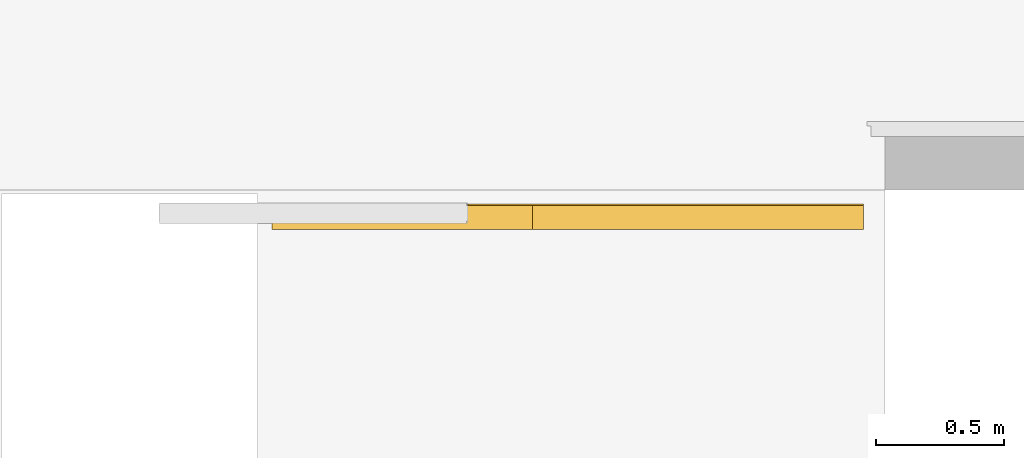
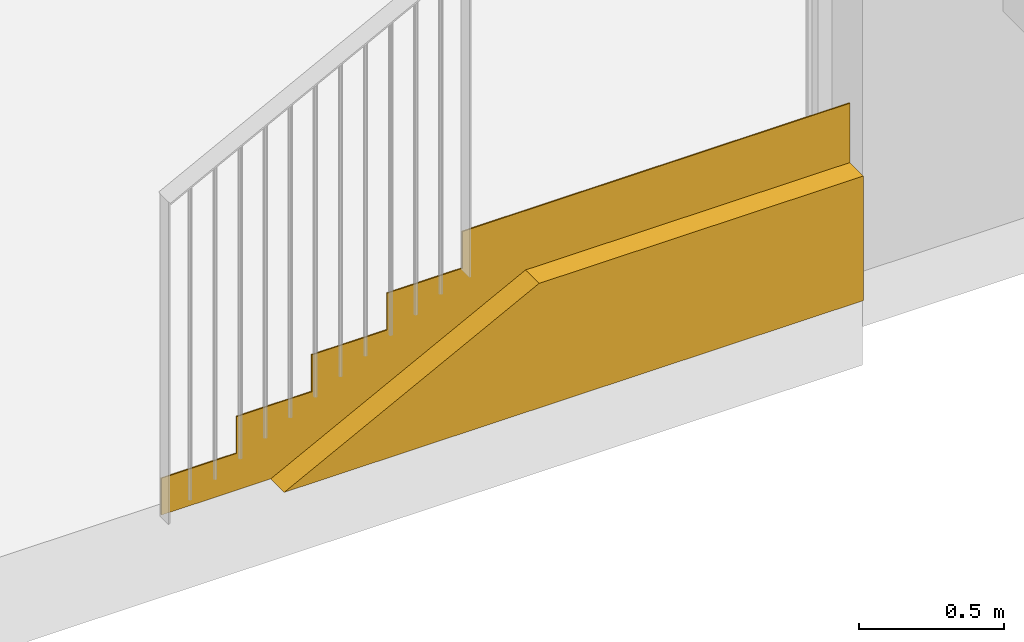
# One storey, part 37 of 43: 1 covering.
"""IFC2X3 building model written with IfcOpenShell, lengths in millimetres."""

from ifc_helpers import new_model, entity, si_unit, converted_unit, derived_unit, money_unit, direction, frame, origin_with_axes, place, context, subcontext, project, spatial, faceted_brep, material, material_list, type_object, element, save


model = new_model("IFC2X3")

# Units and contexts
model_context = context("Model", 3, precision=0.01, world=origin_with_axes(), true_north=direction((0.0, 1.0)))
body_context = subcontext(model_context, "Body", "Model", "MODEL_VIEW")
ifc_project = project(units=[si_unit("LENGTHUNIT", "METRE", prefix="MILLI"), si_unit("AREAUNIT", "SQUARE_METRE"), si_unit("VOLUMEUNIT", "CUBIC_METRE"), converted_unit("PLANEANGLEUNIT", "DEGREE", entity("IfcPlaneAngleMeasure", 0.0174532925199), si_unit("PLANEANGLEUNIT", "RADIAN"), dimensions=[0, 0, 0, 0, 0, 0, 0]), si_unit("SOLIDANGLEUNIT", "STERADIAN"), money_unit("EUR"), converted_unit("TIMEUNIT", "Year", entity("IfcTimeMeasure", 31556926.0), si_unit("TIMEUNIT", "SECOND"), dimensions=[0, 0, 1, 0, 0, 0, 0]), si_unit("MASSUNIT", "GRAM", prefix="KILO"), si_unit("THERMODYNAMICTEMPERATUREUNIT", "DEGREE_CELSIUS"), si_unit("LUMINOUSINTENSITYUNIT", "LUMEN"), si_unit("ENERGYUNIT", "JOULE", prefix="MEGA"), derived_unit("THERMALCONDUCTANCEUNIT", [(si_unit("POWERUNIT", "WATT"), 1), (si_unit("LENGTHUNIT", "METRE"), -1), (si_unit("THERMODYNAMICTEMPERATUREUNIT", "KELVIN"), -1)]), derived_unit("SPECIFICHEATCAPACITYUNIT", [(si_unit("ENERGYUNIT", "JOULE"), 1), (si_unit("MASSUNIT", "GRAM", prefix="KILO"), -1), (si_unit("THERMODYNAMICTEMPERATUREUNIT", "KELVIN"), -1)]), derived_unit("MASSDENSITYUNIT", [(si_unit("MASSUNIT", "GRAM", prefix="KILO"), 1), (si_unit("VOLUMEUNIT", "CUBIC_METRE"), -1)])], contexts=[model_context])

# Site, building, storey
site_placement = place(None, origin_with_axes())
site = spatial("IfcSite", under=ifc_project, at=site_placement, Name="L.Koidula tn 11b", CompositionType="ELEMENT")
building_placement = place(site_placement, origin_with_axes())
building = spatial("IfcBuilding", under=site, at=building_placement, Name="Rakvere Riigigümnaasium", CompositionType="ELEMENT")
storey_placement = place(building_placement, frame((0.0, 0.0, 6665.0), z_axis=(0.0, 0.0, 1.0), x_axis=(1.0, 0.0, 0.0)))
storey = spatial("IfcBuildingStorey", under=building, at=storey_placement, Name="3.korrus +6,66", CompositionType="ELEMENT", Elevation=6665.0)

# Covering
ifc_material_1 = material(Name="Keraamiline plaat valge")
ifc_material_2 = material(Name="Alumiiniumprofiil")
ifc_material_3 = material(Name="Kipsplaat")
ifc_material_4 = material(Name="Karkass")
ifc_material_list = material_list([ifc_material_1, ifc_material_2, ifc_material_2, ifc_material_3, ifc_material_4])
covering_type = type_object("IfcCoveringType", Name="SA-Pinnakate-Ker 99", PredefinedType="NOTDEFINED")
covering_placement = place(storey_placement, frame((72599.9986371, 17040.4555096, 0.0), z_axis=(0.0, 0.0, 1.0), x_axis=(1.0, 0.0, 0.0)))
element("IfcCovering", 1, at=covering_placement, inside=storey, type_object=covering_type, material=ifc_material_list, Name="Pinnakate-keraamiline-neetidega", PredefinedType="NOTDEFINED", context=body_context, shape_type="Brep", body=[
    faceted_brep([(899.999887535, 15.0, 620.0), (1199.99988753, 15.0, 620.0), (1199.99988753, 15.0, 775.0), (2745.08350465, 15.0, 775.0), (2745.08350465, 15.0, 0.0), (0.0, 15.0, 0.0), (-0.000112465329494, 15.0000000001, 155.0), (299.999891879, 15.0, 155.0), (299.999891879, 15.0, 310.0), (599.99987996, 15.0, 310.0), (599.99987996, 15.0, 465.0), (899.999887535, 15.0, 465.0), (899.999884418, 10.0, 620.0), (1199.99988442, 10.0, 620.0), (1199.99988442, 10.0, 775.0), (2745.08350465, 10.0, 775.0), (2745.08350465, 10.0, 0.0), (0.0, 10.0, 0.0), (-0.000115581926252, 10.0000000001, 155.0), (299.99988875, 10.0, 155.0), (299.99988875, 10.0, 310.0), (599.999876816, 10.0, 310.0), (599.999876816, 10.0, 465.0), (899.999884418, 10.0, 465.0)], [[[0, 1, 2, 3, 4, 5, 6, 7, 8, 9, 10, 11]], [[1, 0, 12, 13]], [[14, 2, 1, 13]], [[2, 14, 15, 3]], [[15, 16, 4, 3]], [[4, 16, 17, 5]], [[18, 6, 5, 17]], [[7, 6, 18, 19]], [[8, 7, 19, 20]], [[9, 8, 20, 21]], [[10, 9, 21, 22]], [[11, 10, 22, 23]], [[0, 11, 23, 12]], [[19, 18, 17, 16, 15, 14, 13, 12, 23, 22, 21, 20]]]),
    faceted_brep([(1451.83930043, 10.0491003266, 775.0), (1451.83930043, 9.99999613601, 775.0), (2745.08350465, 9.99999613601, 775.0), (1451.83930043, 10.0491003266, 525.000006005), (1451.83930043, 9.99999613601, 525.0), (2745.08350465, 9.99999613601, 525.0), (1199.99945222, 0.0, 394.882749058), (1451.83930028, 0.0, 525.0), (1199.99945268, 10.0491003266, 394.882749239), (2745.08350465, 0.0, 525.0), (435.71081822, 10.0491027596, 0.0), (2745.08350465, 10.0, 0.0), (900.0, 10.0491027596, 239.882758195), (937.499930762, 10.0491027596, 259.257753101), (974.999861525, 10.0491027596, 278.632748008), (987.499838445, 10.0491027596, 285.091079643), (999.999815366, 10.0491027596, 291.549411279), (1024.99976921, 10.0491027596, 304.466077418), (1049.99972305, 10.0491027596, 317.382743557), (1074.99967689, 10.0491027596, 330.299409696), (1099.99963073, 10.0491027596, 343.216075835), (1112.49960765, 10.0491027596, 349.674409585), (1124.99958457, 10.0491027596, 356.132743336), (1162.49951534, 10.0491027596, 375.507744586), (2745.08350465, 0.0, 0.0), (1164.49335362, 0.0, 376.537896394), (1160.50567527, 0.0, 374.477592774), (1124.99958291, 0.0, 356.13274333), (1113.16421879, 0.0, 350.017793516), (1111.83499267, 0.0, 349.331025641), (1099.99962855, 0.0, 343.216075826), (1076.32890031, 0.0, 330.986177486), (1073.67044808, 0.0, 329.612641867), (1049.99971983, 0.0, 317.382743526), (1026.32899159, 0.0, 305.152845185), (1023.67053936, 0.0, 303.779309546), (999.999811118, 0.0, 291.549411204), (988.164446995, 0.0, 285.434463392), (986.835220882, 0.0, 284.747695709), (974.999856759, 0.0, 278.632747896), (939.49376439, 0.0, 260.287904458), (935.506086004, 0.0, 258.227601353), (899.999993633, 0.0, 239.882757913), (863.696298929, 0.0, 221.125843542), (861.303688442, 0.0, 219.889661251), (824.999993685, 0.0, 201.132746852), (788.696298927, 0.0, 182.375836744), (786.303688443, 0.0, 181.139654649), (749.999993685, 0.0, 162.38274454), (713.696298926, 0.0, 143.625833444), (711.303688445, 0.0, 142.389651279), (674.999993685, 0.0, 123.632740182), (638.696298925, 0.0, 104.875831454), (636.303688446, 0.0, 103.639649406), (599.999993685, 0.0, 84.8827406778), (563.696298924, 0.0, 66.1258324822), (561.303688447, 0.0, 64.8896504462), (524.999993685, 0.0, 46.1327422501), (488.696298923, 0.0, 27.3758340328), (486.303688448, 0.0, 26.1396519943), (449.999993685, 0.0, 7.38274377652), (435.710811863, 0.0, 0.0), (825.0, 10.0491027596, 201.132746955), (862.5, 10.0491027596, 220.507752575), (450.0, 10.0491027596, 7.38274375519), (487.5, 10.0491027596, 26.7577429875), (525.0, 10.0491027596, 46.1327422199), (562.5, 10.0491027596, 65.5077414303), (600.0, 10.0491027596, 84.8827406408), (637.5, 10.0491027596, 104.257740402), (675.0, 10.0491027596, 123.632740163), (712.5, 10.0491027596, 143.007742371), (750.0, 10.0491027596, 162.382744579), (787.5, 10.0491027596, 181.757745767)], [[[0, 1, 2]], [[3, 4, 1, 0]], [[4, 5, 2, 1]], [[0, 2, 3]], [[6, 7, 4, 3, 8]], [[7, 9, 5, 4]], [[10, 2, 5, 11]], [[3, 2, 12, 13, 14, 15, 16, 17, 18, 19, 20, 21, 22, 23, 8]], [[24, 9, 7, 6, 25, 26, 27, 28, 29, 30, 31, 32, 33, 34, 35, 36, 37, 38, 39, 40, 41, 42, 43, 44, 45, 46, 47, 48, 49, 50, 51, 52, 53, 54, 55, 56, 57, 58, 59, 60, 61]], [[25, 6, 8, 23]], [[11, 5, 9, 24]], [[62, 63, 2, 10, 64, 65, 66, 67, 68, 69, 70, 71, 72, 73]], [[11, 24, 61, 10]], [[63, 12, 2]], [[42, 41, 13, 12]], [[40, 39, 14, 13]], [[39, 38, 15, 14]], [[37, 36, 16, 15]], [[36, 35, 17, 16]], [[34, 33, 18, 17]], [[33, 32, 19, 18]], [[31, 30, 20, 19]], [[30, 29, 21, 20]], [[28, 27, 22, 21]], [[27, 26, 23, 22]], [[25, 23, 26]], [[28, 21, 29]], [[31, 19, 32]], [[34, 17, 35]], [[37, 15, 38]], [[40, 13, 41]], [[43, 42, 12, 63]], [[43, 63, 44]], [[45, 44, 63, 62]], [[46, 45, 62, 73]], [[46, 73, 47]], [[48, 47, 73, 72]], [[49, 48, 72, 71]], [[49, 71, 50]], [[51, 50, 71, 70]], [[52, 51, 70, 69]], [[52, 69, 53]], [[54, 53, 69, 68]], [[55, 54, 68, 67]], [[55, 67, 56]], [[57, 56, 67, 66]], [[58, 57, 66, 65]], [[58, 65, 59]], [[60, 59, 65, 64]], [[61, 60, 64, 10]]]),
    faceted_brep([(1199.99945222, 0.0, 394.882749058), (1451.83930028, 0.0, 525.0), (2745.08350465, 0.0, 525.0), (2745.08350465, 0.0, 0.0), (435.710811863, 0.0, 0.0), (449.999993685, 0.0, 7.38274377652), (486.303688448, 0.0, 26.1396519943), (488.696298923, 0.0, 27.3758340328), (524.999993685, 0.0, 46.1327422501), (561.303688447, 0.0, 64.8896504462), (563.696298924, 0.0, 66.1258324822), (599.999993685, 0.0, 84.8827406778), (636.303688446, 0.0, 103.639649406), (638.696298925, 0.0, 104.875831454), (674.999993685, 0.0, 123.632740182), (711.303688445, 0.0, 142.389651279), (713.696298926, 0.0, 143.625833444), (749.999993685, 0.0, 162.38274454), (786.303688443, 0.0, 181.139654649), (788.696298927, 0.0, 182.375836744), (824.999993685, 0.0, 201.132746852), (861.303688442, 0.0, 219.889661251), (863.696298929, 0.0, 221.125843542), (899.999993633, 0.0, 239.882757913), (935.506086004, 0.0, 258.227601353), (939.49376439, 0.0, 260.287904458), (974.999856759, 0.0, 278.632747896), (986.835220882, 0.0, 284.747695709), (988.164446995, 0.0, 285.434463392), (999.999811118, 0.0, 291.549411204), (1023.67053936, 0.0, 303.779309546), (1026.32899159, 0.0, 305.152845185), (1049.99971983, 0.0, 317.382743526), (1073.67044808, 0.0, 329.612641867), (1076.32890031, 0.0, 330.986177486), (1099.99962855, 0.0, 343.216075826), (1111.83499267, 0.0, 349.331025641), (1113.16421879, 0.0, 350.017793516), (1124.99958291, 0.0, 356.13274333), (1160.50567527, 0.0, 374.477592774), (1164.49335362, 0.0, 376.537896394), (1199.99945199, -5.0, 394.882748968), (1451.83930021, -5.0, 525.0), (2745.08350465, -5.0, 525.0), (2745.08350465, -5.0, 0.0), (435.710808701, -5.0, 0.0), (449.999990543, -5.0, 7.38274378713), (485.70845543, -5.0, 25.8321165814), (489.291525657, -5.0, 27.6833694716), (524.999990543, -5.0, 46.1327422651), (560.708455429, -5.0, 64.5821150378), (564.291525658, -5.0, 66.4333679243), (599.999990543, -5.0, 84.8827406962), (635.708455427, -5.0, 103.332113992), (639.29152566, -5.0, 105.183366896), (674.999990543, -5.0, 123.632740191), (710.708455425, -5.0, 142.082115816), (714.291525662, -5.0, 143.933368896), (749.999990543, -5.0, 162.38274452), (785.708455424, -5.0, 180.832119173), (789.291525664, -5.0, 182.683372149), (824.999990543, -5.0, 201.132746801), (860.708455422, -5.0, 219.582125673), (864.291525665, -5.0, 221.433378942), (899.999990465, -5.0, 239.882757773), (934.514034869, -5.0, 257.715042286), (940.485809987, -5.0, 260.80046333), (974.999854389, -5.0, 278.632747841), (986.504535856, -5.0, 284.576842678), (988.495127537, -5.0, 285.605316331), (999.999809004, -5.0, 291.549411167), (1023.00917194, -5.0, 303.437603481), (1026.9903553, -5.0, 305.494551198), (1049.99971823, -5.0, 317.382743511), (1073.00908117, -5.0, 329.270935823), (1076.99026453, -5.0, 331.32788351), (1099.99962746, -5.0, 343.216075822), (1111.50430893, -5.0, 349.160172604), (1113.49490061, -5.0, 350.188646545), (1124.99958208, -5.0, 356.132743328), (1159.51362648, -5.0, 373.965033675), (1165.48540153, -5.0, 377.050455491)], [[[0, 1, 2, 3, 4, 5, 6, 7, 8, 9, 10, 11, 12, 13, 14, 15, 16, 17, 18, 19, 20, 21, 22, 23, 24, 25, 26, 27, 28, 29, 30, 31, 32, 33, 34, 35, 36, 37, 38, 39, 40]], [[41, 42, 1, 0]], [[42, 43, 2, 1]], [[3, 2, 43, 44]], [[3, 44, 45, 4]], [[45, 46, 5, 4]], [[46, 47, 6, 5]], [[7, 6, 47, 48]], [[48, 49, 8, 7]], [[49, 50, 9, 8]], [[10, 9, 50, 51]], [[51, 52, 11, 10]], [[52, 53, 12, 11]], [[13, 12, 53, 54]], [[54, 55, 14, 13]], [[55, 56, 15, 14]], [[16, 15, 56, 57]], [[57, 58, 17, 16]], [[58, 59, 18, 17]], [[19, 18, 59, 60]], [[60, 61, 20, 19]], [[61, 62, 21, 20]], [[22, 21, 62, 63]], [[63, 64, 23, 22]], [[64, 65, 24, 23]], [[25, 24, 65, 66]], [[66, 67, 26, 25]], [[67, 68, 27, 26]], [[28, 27, 68, 69]], [[69, 70, 29, 28]], [[70, 71, 30, 29]], [[31, 30, 71, 72]], [[72, 73, 32, 31]], [[73, 74, 33, 32]], [[34, 33, 74, 75]], [[75, 76, 35, 34]], [[76, 77, 36, 35]], [[37, 36, 77, 78]], [[78, 79, 38, 37]], [[79, 80, 39, 38]], [[40, 39, 80, 81]], [[81, 41, 0, 40]], [[44, 43, 42, 41, 81, 80, 79, 78, 77, 76, 75, 74, 73, 72, 71, 70, 69, 68, 67, 66, 65, 64, 63, 62, 61, 60, 59, 58, 57, 56, 55, 54, 53, 52, 51, 50, 49, 48, 47, 46, 45]]]),
    faceted_brep([(1199.99945199, -5.0, 394.882748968), (1451.83930021, -5.0, 525.0), (2745.08350465, -5.0, 525.0), (2745.08350465, -5.0, 0.0), (435.710808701, -5.0, 0.0), (449.999990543, -5.0, 7.38274378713), (485.70845543, -5.0, 25.8321165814), (489.291525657, -5.0, 27.6833694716), (524.999990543, -5.0, 46.1327422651), (560.708455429, -5.0, 64.5821150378), (564.291525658, -5.0, 66.4333679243), (599.999990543, -5.0, 84.8827406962), (635.708455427, -5.0, 103.332113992), (639.29152566, -5.0, 105.183366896), (674.999990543, -5.0, 123.632740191), (710.708455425, -5.0, 142.082115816), (714.291525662, -5.0, 143.933368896), (749.999990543, -5.0, 162.38274452), (785.708455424, -5.0, 180.832119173), (789.291525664, -5.0, 182.683372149), (824.999990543, -5.0, 201.132746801), (860.708455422, -5.0, 219.582125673), (864.291525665, -5.0, 221.433378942), (899.999990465, -5.0, 239.882757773), (934.514034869, -5.0, 257.715042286), (940.485809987, -5.0, 260.80046333), (974.999854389, -5.0, 278.632747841), (986.504535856, -5.0, 284.576842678), (988.495127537, -5.0, 285.605316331), (999.999809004, -5.0, 291.549411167), (1023.00917194, -5.0, 303.437603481), (1026.9903553, -5.0, 305.494551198), (1049.99971823, -5.0, 317.382743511), (1073.00908117, -5.0, 329.270935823), (1076.99026453, -5.0, 331.32788351), (1099.99962746, -5.0, 343.216075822), (1111.50430893, -5.0, 349.160172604), (1113.49490061, -5.0, 350.188646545), (1124.99958208, -5.0, 356.132743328), (1159.51362648, -5.0, 373.965033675), (1165.48540153, -5.0, 377.050455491), (1199.99945141, -17.5, 394.882748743), (1451.83930002, -17.5, 525.0), (2745.08350465, -17.5, 525.0), (2745.08350465, -17.5, 0.0), (435.710800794, -17.5, 0.0), (449.999982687, -17.5, 7.38274381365), (484.220372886, -17.5, 25.0632780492), (490.779592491, -17.5, 28.4522080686), (524.999982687, -17.5, 46.1327423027), (559.220372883, -17.5, 63.813276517), (565.779592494, -17.5, 67.2022065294), (599.999982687, -17.5, 84.8827407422), (634.220372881, -17.5, 102.563275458), (640.779592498, -17.5, 105.952205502), (674.999982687, -17.5, 123.632740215), (709.220372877, -17.5, 141.313277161), (715.779592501, -17.5, 144.702207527), (749.999982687, -17.5, 162.382744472), (784.220372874, -17.5, 180.063280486), (790.779592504, -17.5, 183.45221066), (824.999982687, -17.5, 201.132746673), (859.220372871, -17.5, 218.813286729), (865.779592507, -17.5, 222.202217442), (899.999982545, -17.5, 239.882757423), (932.033907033, -17.5, 256.433644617), (942.965923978, -17.5, 262.081860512), (974.999848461, -17.5, 278.632747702), (985.677823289, -17.5, 284.149710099), (989.321828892, -17.5, 286.032448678), (999.999803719, -17.5, 291.549411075), (1021.35575337, -17.5, 302.583338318), (1028.64376458, -17.5, 306.34881623), (1049.99971424, -17.5, 317.382743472), (1071.35566389, -17.5, 328.416670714), (1078.6436751, -17.5, 332.18214857), (1099.99962475, -17.5, 343.21607581), (1110.67759958, -17.5, 348.733040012), (1114.32160518, -17.5, 350.61577912), (1124.99958001, -17.5, 356.132743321), (1157.03350448, -17.5, 372.683635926), (1167.96552131, -17.5, 378.331853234)], [[[0, 1, 2, 3, 4, 5, 6, 7, 8, 9, 10, 11, 12, 13, 14, 15, 16, 17, 18, 19, 20, 21, 22, 23, 24, 25, 26, 27, 28, 29, 30, 31, 32, 33, 34, 35, 36, 37, 38, 39, 40]], [[41, 42, 1, 0]], [[42, 43, 2, 1]], [[3, 2, 43, 44]], [[3, 44, 45, 4]], [[45, 46, 5, 4]], [[46, 47, 6, 5]], [[7, 6, 47, 48]], [[48, 49, 8, 7]], [[49, 50, 9, 8]], [[10, 9, 50, 51]], [[51, 52, 11, 10]], [[52, 53, 12, 11]], [[13, 12, 53, 54]], [[54, 55, 14, 13]], [[55, 56, 15, 14]], [[16, 15, 56, 57]], [[57, 58, 17, 16]], [[58, 59, 18, 17]], [[19, 18, 59, 60]], [[60, 61, 20, 19]], [[61, 62, 21, 20]], [[22, 21, 62, 63]], [[63, 64, 23, 22]], [[64, 65, 24, 23]], [[25, 24, 65, 66]], [[66, 67, 26, 25]], [[67, 68, 27, 26]], [[28, 27, 68, 69]], [[69, 70, 29, 28]], [[70, 71, 30, 29]], [[31, 30, 71, 72]], [[72, 73, 32, 31]], [[73, 74, 33, 32]], [[34, 33, 74, 75]], [[75, 76, 35, 34]], [[76, 77, 36, 35]], [[37, 36, 77, 78]], [[78, 79, 38, 37]], [[79, 80, 39, 38]], [[40, 39, 80, 81]], [[81, 41, 0, 40]], [[44, 43, 42, 41, 81, 80, 79, 78, 77, 76, 75, 74, 73, 72, 71, 70, 69, 68, 67, 66, 65, 64, 63, 62, 61, 60, 59, 58, 57, 56, 55, 54, 53, 52, 51, 50, 49, 48, 47, 46, 45]]]),
    faceted_brep([(1199.99945141, -17.5, 394.882748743), (1451.83930002, -17.5, 525.0), (2745.08350465, -17.5, 525.0), (2745.08350465, -17.5, 0.0), (435.710800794, -17.5, 0.0), (449.999982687, -17.5, 7.38274381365), (484.220372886, -17.5, 25.0632780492), (490.779592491, -17.5, 28.4522080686), (524.999982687, -17.5, 46.1327423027), (559.220372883, -17.5, 63.813276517), (565.779592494, -17.5, 67.2022065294), (599.999982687, -17.5, 84.8827407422), (634.220372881, -17.5, 102.563275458), (640.779592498, -17.5, 105.952205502), (674.999982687, -17.5, 123.632740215), (709.220372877, -17.5, 141.313277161), (715.779592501, -17.5, 144.702207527), (749.999982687, -17.5, 162.382744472), (784.220372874, -17.5, 180.063280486), (790.779592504, -17.5, 183.45221066), (824.999982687, -17.5, 201.132746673), (859.220372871, -17.5, 218.813286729), (865.779592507, -17.5, 222.202217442), (899.999982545, -17.5, 239.882757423), (932.033907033, -17.5, 256.433644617), (942.965923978, -17.5, 262.081860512), (974.999848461, -17.5, 278.632747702), (985.677823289, -17.5, 284.149710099), (989.321828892, -17.5, 286.032448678), (999.999803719, -17.5, 291.549411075), (1021.35575337, -17.5, 302.583338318), (1028.64376458, -17.5, 306.34881623), (1049.99971424, -17.5, 317.382743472), (1071.35566389, -17.5, 328.416670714), (1078.6436751, -17.5, 332.18214857), (1099.99962475, -17.5, 343.21607581), (1110.67759958, -17.5, 348.733040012), (1114.32160518, -17.5, 350.61577912), (1124.99958001, -17.5, 356.132743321), (1157.03350448, -17.5, 372.683635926), (1167.96552131, -17.5, 378.331853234), (1199.99944836, -83.5, 394.882747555), (1451.83929904, -83.5, 525.0), (2745.08350465, -83.5, 525.0), (2745.08350465, -83.5, 0.0), (435.710759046, -83.5, 0.0), (449.99994121, -83.5, 7.38274395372), (476.363297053, -83.5, 21.0038105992), (498.636585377, -83.5, 32.5116758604), (524.99994121, -83.5, 46.1327425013), (551.363297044, -83.5, 59.7538091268), (573.636585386, -83.5, 71.2616743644), (599.99994121, -83.5, 84.8827409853), (626.363297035, -83.5, 98.5038079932), (648.6365854, -83.5, 110.011673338), (674.99994121, -83.5, 123.632740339), (701.36329702, -83.5, 137.253809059), (723.636585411, -83.5, 148.761675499), (749.99994121, -83.5, 162.382744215), (776.36329701, -83.5, 176.003812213), (798.636585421, -83.5, 187.511678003), (824.99994121, -83.5, 201.132745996), (851.363297, -83.5, 214.753817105), (873.636585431, -83.5, 226.261684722), (899.999940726, -83.5, 239.882755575), (918.938832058, -83.5, 249.667864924), (956.060925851, -83.5, 268.847637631), (974.999817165, -83.5, 278.632746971), (981.312780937, -83.5, 281.894450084), (993.686812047, -83.5, 288.287707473), (999.999775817, -83.5, 291.549410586), (1012.62570336, -83.5, 298.072818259), (1037.37376559, -83.5, 310.859335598), (1049.99969312, -83.5, 317.382743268), (1062.62562065, -83.5, 323.906150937), (1087.3736829, -83.5, 336.692668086), (1099.99961042, -83.5, 343.216075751), (1106.31257419, -83.5, 346.477779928), (1118.68660531, -83.5, 352.871039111), (1124.99956907, -83.5, 356.132743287), (1143.93846036, -83.5, 365.917855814), (1181.06055377, -83.5, 385.097633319)], [[[0, 1, 2, 3, 4, 5, 6, 7, 8, 9, 10, 11, 12, 13, 14, 15, 16, 17, 18, 19, 20, 21, 22, 23, 24, 25, 26, 27, 28, 29, 30, 31, 32, 33, 34, 35, 36, 37, 38, 39, 40]], [[41, 42, 1, 0]], [[42, 43, 2, 1]], [[3, 2, 43, 44]], [[3, 44, 45, 4]], [[45, 46, 5, 4]], [[46, 47, 6, 5]], [[7, 6, 47, 48]], [[48, 49, 8, 7]], [[49, 50, 9, 8]], [[10, 9, 50, 51]], [[51, 52, 11, 10]], [[52, 53, 12, 11]], [[13, 12, 53, 54]], [[54, 55, 14, 13]], [[55, 56, 15, 14]], [[16, 15, 56, 57]], [[57, 58, 17, 16]], [[58, 59, 18, 17]], [[19, 18, 59, 60]], [[60, 61, 20, 19]], [[61, 62, 21, 20]], [[22, 21, 62, 63]], [[63, 64, 23, 22]], [[64, 65, 24, 23]], [[25, 24, 65, 66]], [[66, 67, 26, 25]], [[67, 68, 27, 26]], [[28, 27, 68, 69]], [[69, 70, 29, 28]], [[70, 71, 30, 29]], [[31, 30, 71, 72]], [[72, 73, 32, 31]], [[73, 74, 33, 32]], [[34, 33, 74, 75]], [[75, 76, 35, 34]], [[76, 77, 36, 35]], [[37, 36, 77, 78]], [[78, 79, 38, 37]], [[79, 80, 39, 38]], [[40, 39, 80, 81]], [[81, 41, 0, 40]], [[44, 43, 42, 41, 81, 80, 79, 78, 77, 76, 75, 74, 73, 72, 71, 70, 69, 68, 67, 66, 65, 64, 63, 62, 61, 60, 59, 58, 57, 56, 55, 54, 53, 52, 51, 50, 49, 48, 47, 46, 45]]]),
])

save(model, "model.ifc")
